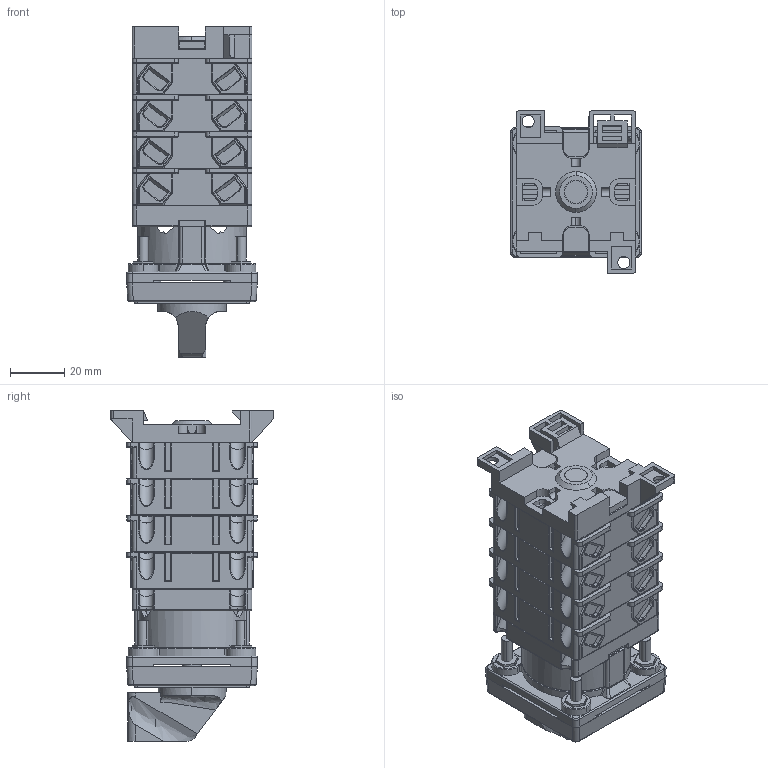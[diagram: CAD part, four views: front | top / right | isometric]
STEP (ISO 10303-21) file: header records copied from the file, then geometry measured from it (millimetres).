
FILE_DESCRIPTION (( 'STEP AP214' ), '1' );
FILE_NAME ('Ïåðåêëþ÷àòåëü 4G10-XXXX-U-S18-R012,R014,S24 4ê.STEP', '2022-11-28T05:54:21', ( '' ), ( '' ), 'SwSTEP 2.0', 'SolidWorks 2018', '' );
FILE_SCHEMA (( 'AUTOMOTIVE_DESIGN' ));
Length unit declared in the file: millimetre
Products named in the file (1): Ïåðåêëþ÷àòåëü 4G10-XXXX-U-S18-R012,R014,S24 4ê
Bounding box: 48 x 59.6 x 121.4 mm (x, y, z)
Volume: 166685.2 mm3; surface area: 81480.8 mm2
Topology: 27 solids, 59 shells, 4611 faces, 11854 edges, 7491 vertices
Faces by surface type: plane 2606, cylinder 1465, torus 224, cone 181, bspline 83, sphere 52
Entity records: 200729 total; most frequent: CARTESIAN_POINT 38859, ORIENTED_EDGE 23610, DIRECTION 22641, EDGE_CURVE 11805, VECTOR 7877, LINE 7877, VERTEX_POINT 7479, AXIS2_PLACEMENT_3D 7382
